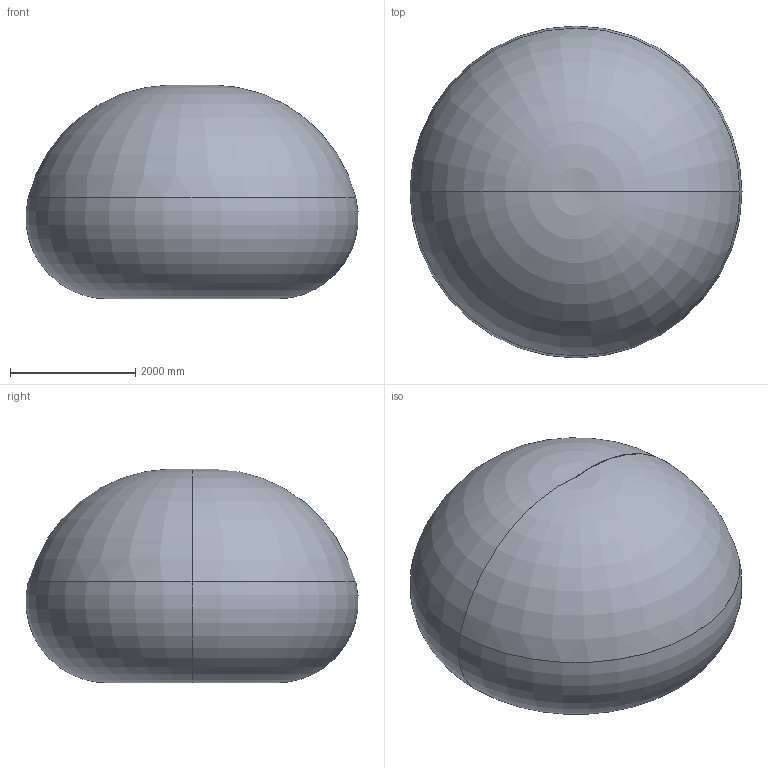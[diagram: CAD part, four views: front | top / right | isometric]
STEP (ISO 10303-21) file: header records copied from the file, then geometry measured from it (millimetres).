
FILE_DESCRIPTION (( 'STEP AP203' ), '1' );
FILE_NAME ('R-2000iC165F, 210F.STEP', '2014-01-24T20:59:42', ( 'FANUC User' ), ( 'FANUC Robotics America' ), 'SwSTEP 2.0', 'SolidWorks 2013', '' );
FILE_SCHEMA (( 'CONFIG_CONTROL_DESIGN' ));
Length unit declared in the file: millimetre
Products named in the file (12): R-2000iC165F, 210F envelope; R-2000iC165F, 210F axis2; R-2000iC165F, 210F; R-2000iC165F, 210F axis3; R-2000iC165F, 210F axis4; R-2000iC165F, 210F axis5; R-2000iC165F, 210F axis6; R-2000iC165F, 210F balancer shaft; R-2000iC165F, 210F balancer; R-2000iC165F, 210F base; R-2000iC165F, 210F forkpockets hip; R-2000iC165F, 210F axis1
Assembly tree (11 placements, depth 2):
  R-2000iC165F, 210F
    R-2000iC165F, 210F base
    R-2000iC165F, 210F axis1
    R-2000iC165F, 210F axis2
    R-2000iC165F, 210F axis3
    R-2000iC165F, 210F axis4
    R-2000iC165F, 210F axis5
    R-2000iC165F, 210F axis6
    R-2000iC165F, 210F balancer shaft
    R-2000iC165F, 210F balancer
    R-2000iC165F, 210F forkpockets hip
    R-2000iC165F, 210F envelope
Bounding box: 5301.4 x 5301.4 x 3413.12 mm (x, y, z)
Volume: 424445302.8 mm3; surface area: 248910439.5 mm2
Topology: 16 solids, 19 shells, 1510 faces, 4057 edges, 2660 vertices
Faces by surface type: plane 995, cylinder 408, cone 52, torus 41, bspline 14
Entity records: 95254 total; most frequent: CARTESIAN_POINT 55776, ORIENTED_EDGE 8090, DIRECTION 7816, EDGE_CURVE 4045, VECTOR 2748, LINE 2748, VERTEX_POINT 2660, AXIS2_PLACEMENT_3D 2534
